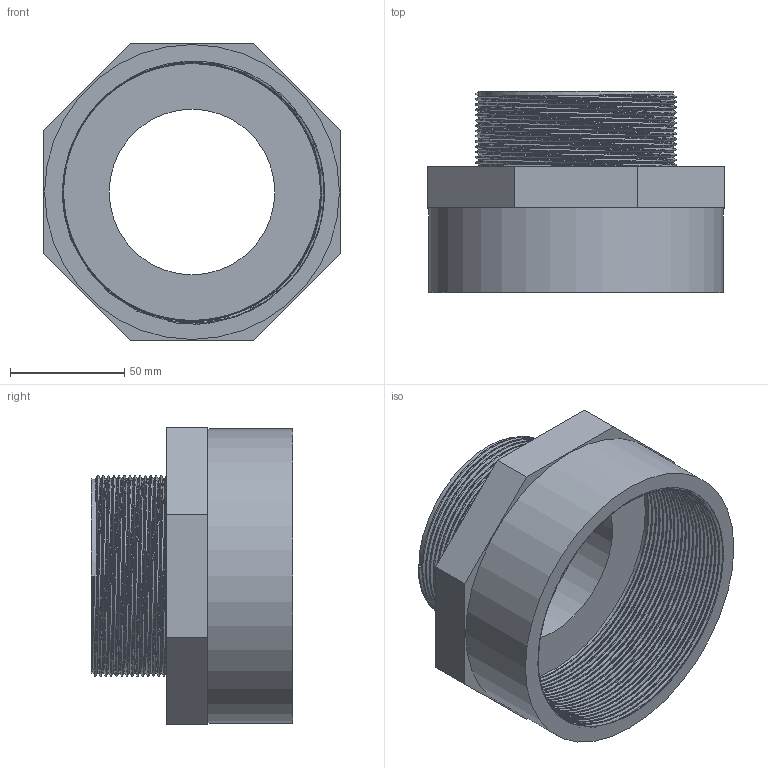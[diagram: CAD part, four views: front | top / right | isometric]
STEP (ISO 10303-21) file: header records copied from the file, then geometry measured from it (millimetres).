
FILE_DESCRIPTION(/* description */ ('PVC riduzione filettata BSP femmina-maschio (maggioratore filettato BSP M-F)'),/* implementation_level */ '2;1');
FILE_NAME(/* name */ 'C:\Users\POLYPIPE\Desktop\DATASET INVENTOR\LIBRERIA EFFAST\RACCORDI 3DxWEB\RER\3D_RERMGE\3D_RERMGE090L.stp',/* time_stamp */ '2018-01-19T16:40:45+01:00',/* author */ ('POLYPIPE'),/* organization */ ('Polypipe Italia s.r.l.'),/* preprocessor_version */ 'ST-DEVELOPER v16.1',/* originating_system */ 'Autodesk Inventor 2016',/* authorisation */ '');
FILE_SCHEMA (('CONFIG_CONTROL_DESIGN'));
Length unit declared in the file: millimetre
Products named in the file (1): 3D_RERMGE
Bounding box: 130 x 88 x 130 mm (x, y, z)
Volume: 277460.4 mm3; surface area: 94799.2 mm2
Topology: 1 solids, 1 shells, 29 faces, 69 edges, 45 vertices
Faces by surface type: plane 15, bspline 10, cylinder 4
Full cylindrical faces by diameter (mm): 72.5 x1, 84.926 x1, 113.03 x1, 129 x1
Entity records: 13270 total; most frequent: CARTESIAN_POINT 12655, ORIENTED_EDGE 128, DIRECTION 94, EDGE_CURVE 64, VERTEX_POINT 43, EDGE_LOOP 37, AXIS2_PLACEMENT_3D 32, LINE 30
